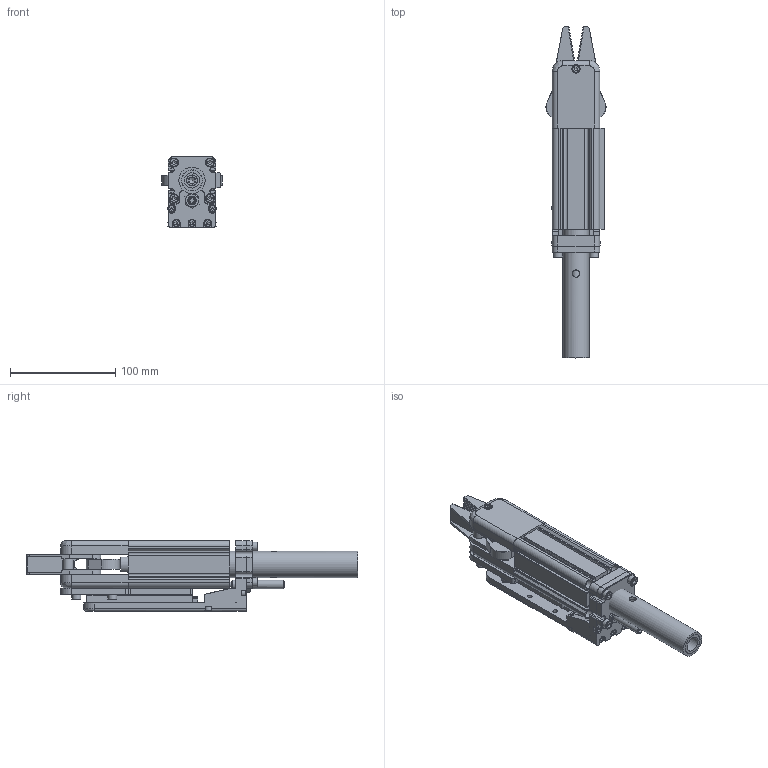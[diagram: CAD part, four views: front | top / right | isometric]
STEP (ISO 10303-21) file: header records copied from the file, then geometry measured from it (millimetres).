
FILE_DESCRIPTION(/* description */ (''),/* implementation_level */ '2;1');
FILE_NAME(/* name */ 'GRP32B-30--25.stp',/* time_stamp */ '2023-02-20T15:49:06+08:00',/* author */ (''),/* organization */ (''),/* preprocessor_version */ 'ST-DEVELOPER v16',/* originating_system */ 'SIEMENS PLM Software NX 10.0',/* authorisation */ '');
FILE_SCHEMA (('AUTOMOTIVE_DESIGN { 1 0 10303 214 3 1 1 1 }'));
Products named in the file (1): _model27
Bounding box: 56.95 x 314.81 x 67 mm (x, y, z)
Volume: 387450.1 mm3; surface area: 181245.4 mm2
Topology: 22 solids, 41 shells, 2652 faces, 5459 edges, 2895 vertices
Faces by surface type: plane 2160, cylinder 307, cone 142, torus 25, revolution 14, bspline 4
Full cylindrical faces by diameter (mm): 2.5 x2, 3.3 x6, 4 x12, 4.1 x1, 4.2 x14, 4.5 x10, 5 x13, 5.2 x8, 5.5 x8, 6 x9, 6.5 x1, 6.647 x2, 6.8 x1, 6.897 x2, 7 x12, 8 x11, 8.485 x1, 8.5 x13, 8.566 x4, 9 x12, 10 x5, 13 x1, 13.5 x1, 14 x1, 14.5 x1, 15 x2, 16 x5, 17 x12, 19.5 x1, 20 x4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
Entity records: 84037 total; most frequent: CARTESIAN_POINT 12687, DIRECTION 11012, ORIENTED_EDGE 9848, EDGE_CURVE 4924, LINE 3874, VECTOR 3874, AXIS2_PLACEMENT_3D 3562, EDGE_LOOP 3142
